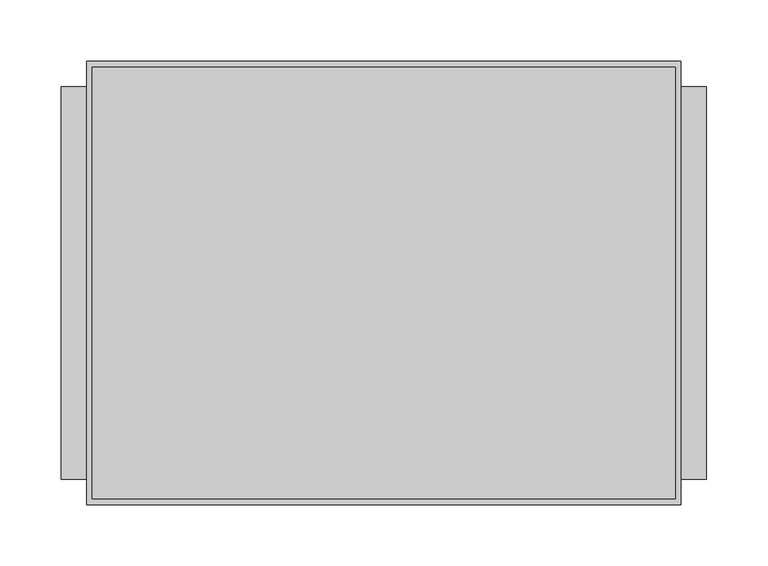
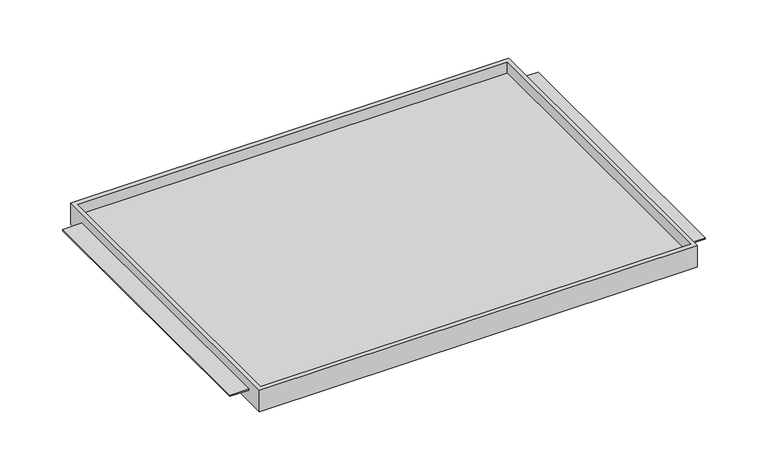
"""IFC4 building model written with IfcOpenShell, lengths in millimetres: furniture geometry."""

from ifc_helpers import new_model, si_unit, origin, place, context, project, spatial, faceted_brep, source, transform, mapped, element, save


def furniture_afa4cdc3(model_context):
    return source(origin(), model_context, "Body", "Brep", [
        faceted_brep([(-242.7689646, -180.975, 764.38252), (242.7689646, -180.975, 764.38252), (242.7689646, -180.975, 789.78252), (-242.7689646, -180.975, 789.78252), (-242.7689646, 180.975, 764.38252), (-242.7689646, 180.975, 789.78252), (242.7689646, 180.975, 789.78252), (242.7689646, 180.975, 764.38252), (242.7689646, -160.3374879, 778.68272), (242.7689646, 160.3374879, 778.68272), (242.7689646, 160.3374879, 777.08252), (242.7689646, -160.3374879, 777.08252), (238.125, -176.2125, 789.78252), (-238.125, -176.2125, 789.78252), (-238.125, 175.91278, 789.78252), (238.125, 175.91278, 789.78252), (-242.7689646, 160.3374879, 778.68272), (-242.7689646, -160.3374879, 778.68272), (-242.7689646, -160.3374879, 777.08252), (-242.7689646, 160.3374879, 777.08252), (-238.125, -176.2125, 777.08252), (238.125, -176.2125, 777.08252), (238.125, 175.91278, 777.08252), (-238.125, 175.91278, 777.08252), (-263.525, 160.3374879, 778.68272), (-263.525, -160.3374879, 778.68272), (263.525, -160.3374879, 778.68272), (263.525, 160.3374879, 778.68272), (-263.525, -160.3374879, 777.08252), (-263.525, 160.3374879, 777.08252), (263.525, -160.3374879, 777.08252), (263.525, 160.3374879, 777.08252)], [[[0, 1, 2, 3]], [[4, 5, 6, 7]], [[1, 0, 4, 7]], [[2, 1, 7, 6], [8, 9, 10, 11]], [[3, 2, 6, 5], [12, 13, 14, 15]], [[0, 3, 5, 4], [16, 17, 18, 19]], [[20, 21, 22, 23]], [[21, 20, 13, 12]], [[22, 21, 12, 15]], [[23, 22, 15, 14]], [[20, 23, 14, 13]], [[16, 24, 25, 17]], [[26, 27, 9, 8]], [[18, 28, 29, 19]], [[30, 11, 10, 31]], [[24, 16, 19, 29]], [[25, 24, 29, 28]], [[17, 25, 28, 18]], [[27, 26, 30, 31]], [[9, 27, 31, 10]], [[26, 8, 11, 30]]]),
    ])


if __name__ == "__main__":
    model = new_model("IFC4")
    model_context = context("Model", 3, world=origin())
    ifc_project = project(units=[si_unit("LENGTHUNIT", "METRE", prefix="MILLI")], contexts=[model_context])
    site = spatial("IfcSite", under=ifc_project)
    building = spatial("IfcBuilding", under=site)
    placement = place(None, origin())
    furniture_shape = furniture_afa4cdc3(model_context)
    element("IfcFurniture", 1, ObjectType="HermanMiller_CoStruc_CO203_CTrayShelf : 14\"D x 20\"W", at=placement, inside=building, context=model_context, shape_type="MappedRepresentation", body=[
        mapped(furniture_shape, transform((0.0, 0.0, 0.0), x_axis=(1.0, 0.0, 0.0), y_axis=(0.0, 1.0, 0.0), z_axis=(0.0, 0.0, 1.0))),
    ])
    save(model, "model.ifc")
